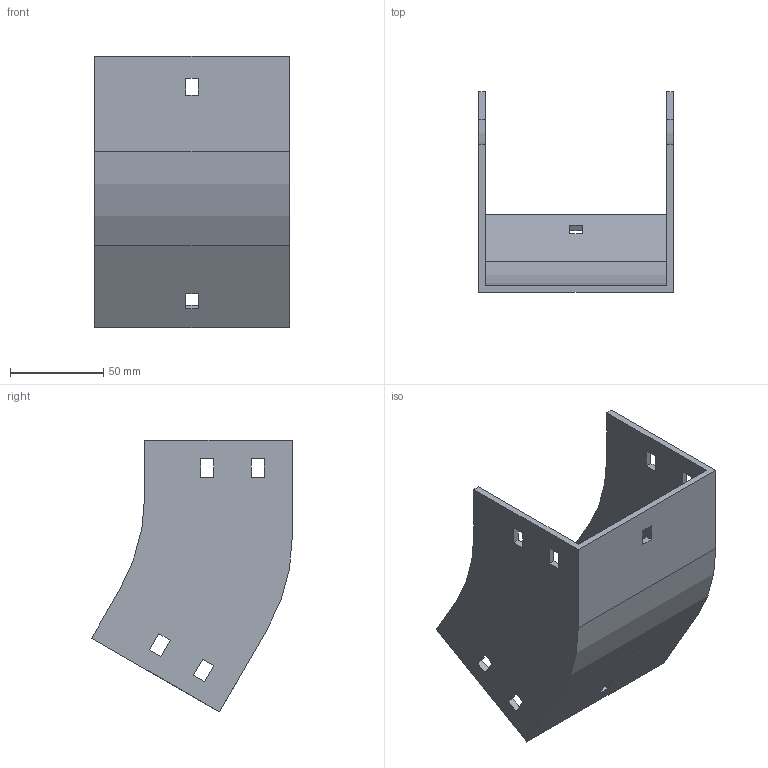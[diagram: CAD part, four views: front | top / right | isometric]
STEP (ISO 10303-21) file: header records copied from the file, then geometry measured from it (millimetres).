
FILE_DESCRIPTION (( 'STEP AP214' ), '1' );
FILE_NAME ('32F1C100.step', '2025-02-21T12:58:27', ( '' ), ( '' ), 'SwSTEP 2.0', 'SolidWorks 2023', '' );
FILE_SCHEMA (( 'AUTOMOTIVE_DESIGN' ));
Length unit declared in the file: millimetre
Products named in the file (1): 32F1C100
Bounding box: 104 x 107.4 x 145.48 mm (x, y, z)
Volume: 124359.7 mm3; surface area: 74809.6 mm2
Topology: 1 solids, 1 shells, 58 faces, 168 edges, 112 vertices
Faces by surface type: plane 54, cylinder 4
Entity records: 1943 total; most frequent: CARTESIAN_POINT 339, ORIENTED_EDGE 336, DIRECTION 294, EDGE_CURVE 168, VECTOR 160, LINE 160, VERTEX_POINT 112, EDGE_LOOP 78
